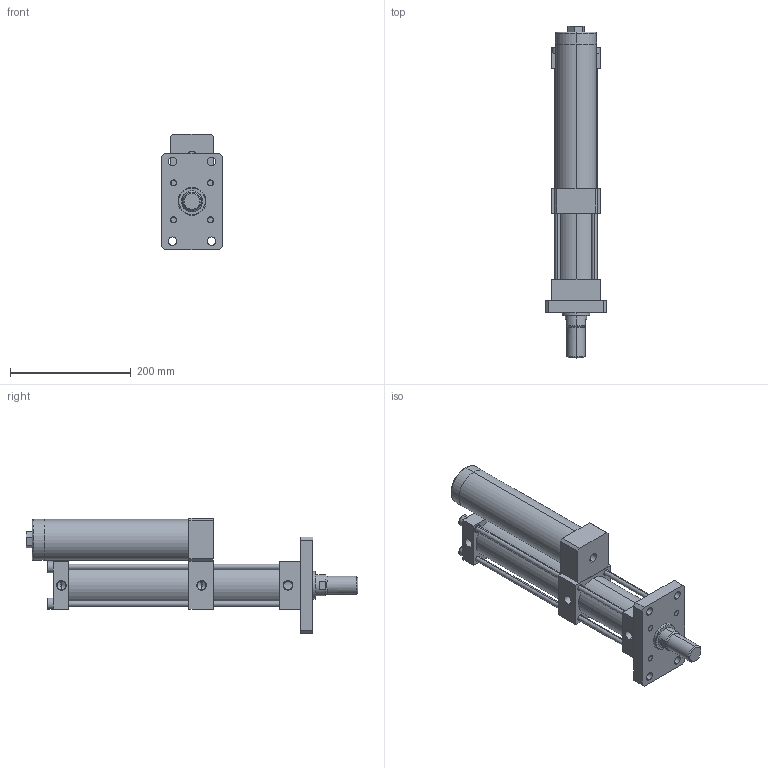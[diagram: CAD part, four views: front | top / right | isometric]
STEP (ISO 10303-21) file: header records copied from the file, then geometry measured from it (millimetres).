
FILE_DESCRIPTION (( 'STEP AP203' ), '1' );
FILE_NAME ('MPT-63-50-15-1T.STEP', '2016-03-17T09:39:15', ( 'WIN' ), ( '' ), 'SwSTEP 2.0', 'SolidWorks 2014', '' );
FILE_SCHEMA (( 'CONFIG_CONTROL_DESIGN' ));
Length unit declared in the file: millimetre
Products named in the file (1): MPT-63-50-15-1T
Bounding box: 100 x 550 x 191 mm (x, y, z)
Volume: 2227248.1 mm3; surface area: 422283.1 mm2
Topology: 14 solids, 14 shells, 251 faces, 573 edges, 360 vertices
Faces by surface type: plane 131, cylinder 84, cone 24, torus 12
Entity records: 7235 total; most frequent: DIRECTION 1304, CARTESIAN_POINT 1278, ORIENTED_EDGE 1134, EDGE_CURVE 567, AXIS2_PLACEMENT_3D 496, VERTEX_POINT 360, LINE 312, VECTOR 312
